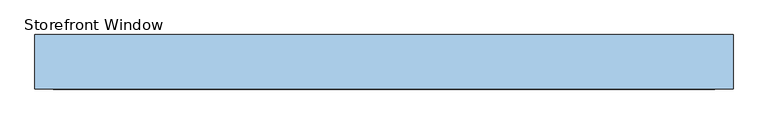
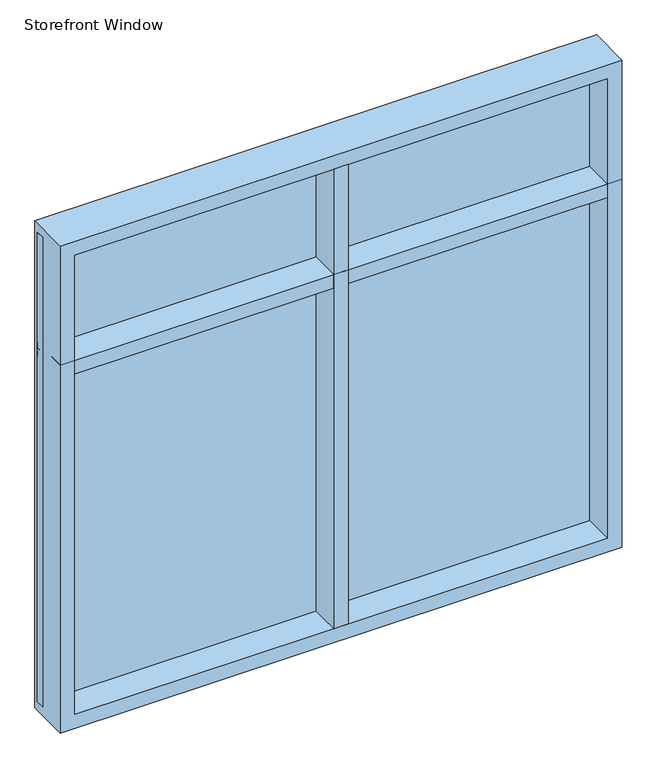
"""IFC4 building model written with IfcOpenShell, lengths in millimetres: window geometry."""

from ifc_helpers import new_model, si_unit, frame, origin, place, context, project, spatial, polyline, outline, extrude, faceted_brep, source, transform, mapped, element, save


def storefront_window_28fc684a(model_context):
    return source(origin(), model_context, "Body", "SolidModel", [
        extrude(outline(polyline([(-467.228262, 69.85), (-443.415762, 69.85), (-443.415762, 107.95), (-467.228262, 107.95), (-467.228262, 127.0), (-403.728262, 127.0), (-403.728262, 107.95), (-427.540762, 107.95), (-427.540762, 69.85), (-403.728262, 69.85), (-403.728262, -63.5), (-467.228262, -63.5), (-467.228262, 69.85)])), frame((0.0, 0.0, 876.3), z_axis=(0.0, 0.0, 1.0), x_axis=(1.0, 0.0, 0.0)), (0.0, 0.0, 1.0), 2108.2),
        extrude(outline(polyline([(-1654.678262, 69.85), (-1654.678262, 107.95), (783.721738, 107.95), (783.721738, 69.85), (-1654.678262, 69.85)])), frame((0.0, 0.0, 852.4875), z_axis=(0.0, 0.0, 1.0), x_axis=(1.0, 0.0, 0.0)), (0.0, 0.0, 1.0), 2155.825),
        faceted_brep([(-1654.678262, -63.5, 3048.0), (-1654.678262, 127.0, 3048.0), (-1654.678262, 127.0, 812.8), (-1654.678262, -63.5, 812.8), (-1591.178262, 69.85, 2984.5), (-1591.178262, -63.5, 2984.5), (-1591.178262, -63.5, 876.3), (-1591.178262, 69.85, 876.3), (-1614.990762, 107.95, 3008.3125), (-1614.990762, 69.85, 3008.3125), (-1614.990762, 69.85, 852.4875), (-1614.990762, 107.95, 852.4875), (-1591.178262, 127.0, 2984.5), (-1591.178262, 107.95, 2984.5), (-1591.178262, 107.95, 876.3), (-1591.178262, 127.0, 876.3), (783.721738, 127.0, 812.8), (783.721738, -63.5, 812.8), (720.221738, -63.5, 876.3), (720.221738, 69.85, 876.3), (744.034238, 69.85, 852.4875), (744.034238, 107.95, 852.4875), (720.221738, 107.95, 876.3), (720.221738, 127.0, 876.3), (783.721738, 127.0, 3048.0), (783.721738, -63.5, 3048.0), (720.221738, -63.5, 2984.5), (720.221738, 69.85, 2984.5), (744.034238, 69.85, 3008.3125), (744.034238, 107.95, 3008.3125), (720.221738, 107.95, 2984.5), (720.221738, 127.0, 2984.5)], [[[0, 1, 2, 3]], [[4, 5, 6, 7]], [[8, 9, 10, 11]], [[12, 13, 14, 15]], [[3, 2, 16, 17]], [[7, 6, 18, 19]], [[11, 10, 20, 21]], [[15, 14, 22, 23]], [[17, 16, 24, 25]], [[19, 18, 26, 27]], [[21, 20, 28, 29]], [[23, 22, 30, 31]], [[1, 24, 16, 2], [15, 23, 31, 12]], [[25, 24, 1, 0]], [[3, 17, 25, 0], [5, 26, 18, 6]], [[27, 26, 5, 4]], [[9, 28, 20, 10], [7, 19, 27, 4]], [[29, 28, 9, 8]], [[11, 21, 29, 8], [13, 30, 22, 14]], [[31, 30, 13, 12]]]),
        extrude(outline(polyline([(127.0, 2438.4), (107.95, 2438.4), (107.95, 2462.2125), (69.85, 2462.2125), (69.85, 2438.4), (-63.5, 2438.4), (-63.5, 2501.9), (69.85, 2501.9), (69.85, 2478.0875), (107.95, 2478.0875), (107.95, 2501.9), (127.0, 2501.9), (127.0, 2438.4)])), frame((-1654.678262, 0.0, 0.0), z_axis=(1.0, 0.0, 0.0), x_axis=(0.0, 1.0, 0.0)), (0.0, 0.0, 1.0), 2438.4),
    ])


if __name__ == "__main__":
    model = new_model("IFC4")
    model_context = context("Model", 3, world=origin())
    ifc_project = project(units=[si_unit("LENGTHUNIT", "METRE", prefix="MILLI")], contexts=[model_context])
    site = spatial("IfcSite", under=ifc_project)
    building = spatial("IfcBuilding", under=site)
    placement = place(None, origin())
    storefront_window_shape = storefront_window_28fc684a(model_context)
    element("IfcWindow", 1, ObjectType="Storefront Window : 8-0\"'x7'-4\"", at=placement, inside=building, context=model_context, shape_type="MappedRepresentation", body=[
        mapped(storefront_window_shape, transform((0.0, 0.0, 0.0), x_axis=(1.0, 0.0, 0.0), y_axis=(0.0, 1.0, 0.0), z_axis=(0.0, 0.0, 1.0))),
    ])
    save(model, "model.ifc")
